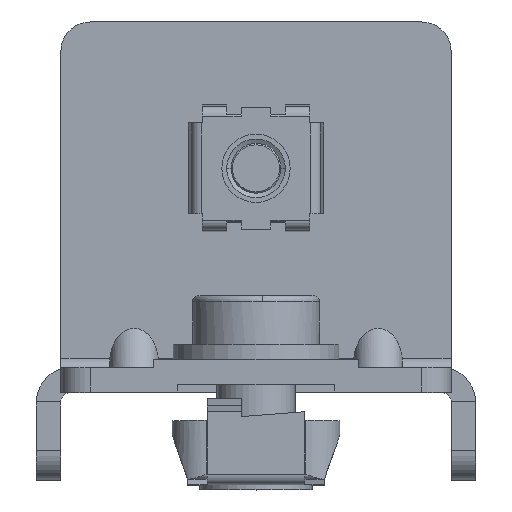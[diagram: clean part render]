
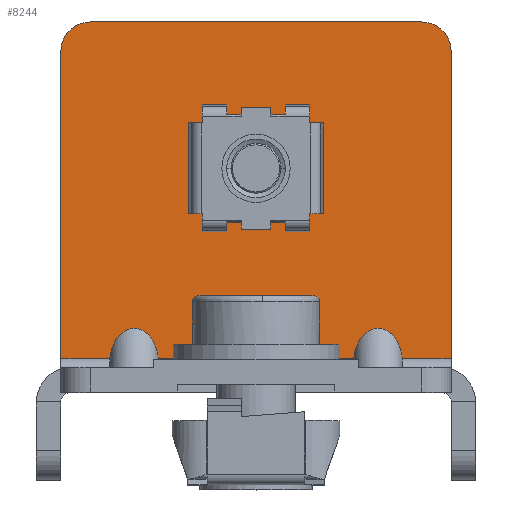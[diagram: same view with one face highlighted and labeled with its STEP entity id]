
A CAD part, top view. The second image highlights one B-rep face of the part: STEP entity #8244.
In plain terms, the highlighted planar face has unit normal (0, 0, 1).
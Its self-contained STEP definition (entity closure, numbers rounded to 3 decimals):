
#96 = CARTESIAN_POINT ( 'NONE',  ( 15.2, 18.2, 2.5 ) ) ;
#174 = VECTOR ( 'NONE', #8031, 1000. ) ;
#188 = ORIENTED_EDGE ( 'NONE', *, *, #5388, .F. ) ;
#197 = EDGE_CURVE ( 'NONE', #1431, #10388, #8009, .T. ) ;
#482 = LINE ( 'NONE', #12268, #1467 ) ;
#528 = DIRECTION ( 'NONE',  ( -1., 0., 0. ) ) ;
#568 = DIRECTION ( 'NONE',  ( -1., 0., 0. ) ) ;
#663 = CARTESIAN_POINT ( 'NONE',  ( 40., 3.5, 2.5 ) ) ;
#966 = DIRECTION ( 'NONE',  ( 1., 0., 0. ) ) ;
#984 = CARTESIAN_POINT ( 'NONE',  ( 37., 38., 2.5 ) ) ;
#1375 = CARTESIAN_POINT ( 'NONE',  ( 24.8, 27.8, 2.5 ) ) ;
#1431 = VERTEX_POINT ( 'NONE', #984 ) ;
#1467 = VECTOR ( 'NONE', #2387, 1000. ) ;
#1484 = CARTESIAN_POINT ( 'NONE',  ( 0., 0., 2.5 ) ) ;
#1514 = EDGE_CURVE ( 'NONE', #11410, #3954, #4826, .T. ) ;
#1663 = CARTESIAN_POINT ( 'NONE',  ( 34.983, 3.5, 2.5 ) ) ;
#1791 = LINE ( 'NONE', #663, #4612 ) ;
#1835 = ORIENTED_EDGE ( 'NONE', *, *, #1514, .T. ) ;
#1841 = ORIENTED_EDGE ( 'NONE', *, *, #6879, .F. ) ;
#1882 = LINE ( 'NONE', #9874, #2524 ) ;
#1891 = VECTOR ( 'NONE', #5561, 1000. ) ;
#1918 = DIRECTION ( 'NONE',  ( 0., 1., 0. ) ) ;
#2026 = ORIENTED_EDGE ( 'NONE', *, *, #8572, .T. ) ;
#2116 = CARTESIAN_POINT ( 'NONE',  ( 30.017, 3.5, 2.5 ) ) ;
#2362 = CARTESIAN_POINT ( 'NONE',  ( 0., 3.5, 2.5 ) ) ;
#2387 = DIRECTION ( 'NONE',  ( 0., 1., 0. ) ) ;
#2514 = FACE_OUTER_BOUND ( 'NONE', #10365, .T. ) ;
#2524 = VECTOR ( 'NONE', #12561, 1000. ) ;
#2548 = CIRCLE ( 'NONE', #9804, 3. ) ;
#2579 = CARTESIAN_POINT ( 'NONE',  ( 5.017, 3.5, 2.5 ) ) ;
#2816 = CARTESIAN_POINT ( 'NONE',  ( 5.489, 9.15, 2.5 ) ) ;
#2927 = CIRCLE ( 'NONE', #10195, 3. ) ;
#2962 = EDGE_CURVE ( 'NONE', #4177, #8483, #1791, .T. ) ;
#2987 = CARTESIAN_POINT ( 'NONE',  ( 37., 35., 2.5 ) ) ;
#3290 = CARTESIAN_POINT ( 'NONE',  ( 15.2, 27.8, 2.5 ) ) ;
#3329 = CARTESIAN_POINT ( 'NONE',  ( 0., 38., 2.5 ) ) ;
#3471 = EDGE_CURVE ( 'NONE', #5972, #12752, #1882, .T. ) ;
#3485 = ORIENTED_EDGE ( 'NONE', *, *, #9521, .T. ) ;
#3633 = EDGE_CURVE ( 'NONE', #3954, #1431, #2927, .T. ) ;
#3813 = DIRECTION ( 'NONE',  ( 0., 0., 1. ) ) ;
#3954 = VERTEX_POINT ( 'NONE', #9914 ) ;
#4007 = ORIENTED_EDGE ( 'NONE', *, *, #2962, .F. ) ;
#4016 = ORIENTED_EDGE ( 'NONE', *, *, #12623, .T. ) ;
#4177 = VERTEX_POINT ( 'NONE', #10763 ) ;
#4347 = LINE ( 'NONE', #8384, #5144 ) ;
#4350 = VERTEX_POINT ( 'NONE', #2362 ) ;
#4612 = VECTOR ( 'NONE', #528, 1000. ) ;
#4697 = VERTEX_POINT ( 'NONE', #7704 ) ;
#4826 = LINE ( 'NONE', #8796, #8736 ) ;
#4834 = EDGE_CURVE ( 'NONE', #10388, #8717, #2548, .T. ) ;
#4850 = CARTESIAN_POINT ( 'NONE',  ( 15.2, 18.2, 2.5 ) ) ;
#5100 = CARTESIAN_POINT ( 'NONE',  ( 15.2, 27.8, 2.5 ) ) ;
#5141 = DIRECTION ( 'NONE',  ( -1., 0., 0. ) ) ;
#5144 = VECTOR ( 'NONE', #568, 1000. ) ;
#5388 = EDGE_CURVE ( 'NONE', #11410, #7023, #4347, .T. ) ;
#5561 = DIRECTION ( 'NONE',  ( 0., -1., 0. ) ) ;
#5647 =( BOUNDED_CURVE ( )  B_SPLINE_CURVE ( 3, ( #2116, #6990, #11215, #8201 ),
 .UNSPECIFIED., .F., .T. ) 
 B_SPLINE_CURVE_WITH_KNOTS ( ( 4, 4 ),
 ( 1.688, 4.595 ),
 .UNSPECIFIED. ) 
 CURVE ( )  GEOMETRIC_REPRESENTATION_ITEM ( )  RATIONAL_B_SPLINE_CURVE ( ( 1., 0.411, 0.411, 1. ) ) 
 REPRESENTATION_ITEM ( '' )  );
#5958 = DIRECTION ( 'NONE',  ( 0., 0., 1. ) ) ;
#5972 = VERTEX_POINT ( 'NONE', #5100 ) ;
#6115 = VERTEX_POINT ( 'NONE', #1375 ) ;
#6180 = EDGE_CURVE ( 'NONE', #12201, #4350, #11456, .T. ) ;
#6330 = ORIENTED_EDGE ( 'NONE', *, *, #3471, .F. ) ;
#6379 = ORIENTED_EDGE ( 'NONE', *, *, #10980, .F. ) ;
#6422 = DIRECTION ( 'NONE',  ( -1., 0., 0. ) ) ;
#6548 = LINE ( 'NONE', #1484, #1891 ) ;
#6737 = CARTESIAN_POINT ( 'NONE',  ( 3., 35., 2.5 ) ) ;
#6774 = CARTESIAN_POINT ( 'NONE',  ( 9.983, 3.5, 2.5 ) ) ;
#6879 = EDGE_CURVE ( 'NONE', #4697, #6115, #482, .T. ) ;
#6990 = CARTESIAN_POINT ( 'NONE',  ( 30.489, 9.15, 2.5 ) ) ;
#7023 = VERTEX_POINT ( 'NONE', #1663 ) ;
#7255 = LINE ( 'NONE', #3290, #174 ) ;
#7327 = DIRECTION ( 'NONE',  ( 0., 0., -1. ) ) ;
#7337 = EDGE_LOOP ( 'NONE', ( #9749, #6330, #6379, #1841 ) ) ;
#7704 = CARTESIAN_POINT ( 'NONE',  ( 24.8, 18.2, 2.5 ) ) ;
#7826 = CARTESIAN_POINT ( 'NONE',  ( 3., 38., 2.5 ) ) ;
#7903 = VECTOR ( 'NONE', #10542, 1000. ) ;
#7982 = CARTESIAN_POINT ( 'NONE',  ( 5.017, 3.5, 2.5 ) ) ;
#8009 = LINE ( 'NONE', #3329, #9327 ) ;
#8031 = DIRECTION ( 'NONE',  ( -1., 0., 0. ) ) ;
#8051 = ORIENTED_EDGE ( 'NONE', *, *, #4834, .T. ) ;
#8201 = CARTESIAN_POINT ( 'NONE',  ( 34.983, 3.5, 2.5 ) ) ;
#8244 = ADVANCED_FACE ( 'NONE', ( #11497, #2514 ), #12597, .F. ) ;
#8384 = CARTESIAN_POINT ( 'NONE',  ( 40., 3.5, 2.5 ) ) ;
#8399 = CARTESIAN_POINT ( 'NONE',  ( 0., 35., 2.5 ) ) ;
#8415 = CARTESIAN_POINT ( 'NONE',  ( 0., 38., 2.5 ) ) ;
#8483 = VERTEX_POINT ( 'NONE', #10709 ) ;
#8572 = EDGE_CURVE ( 'NONE', #4177, #7023, #5647, .T. ) ;
#8717 = VERTEX_POINT ( 'NONE', #8399 ) ;
#8725 = CARTESIAN_POINT ( 'NONE',  ( 40., 3.5, 2.5 ) ) ;
#8736 = VECTOR ( 'NONE', #1918, 1000. ) ;
#8796 = CARTESIAN_POINT ( 'NONE',  ( 40., 0., 2.5 ) ) ;
#9021 = LINE ( 'NONE', #96, #12680 ) ;
#9327 = VECTOR ( 'NONE', #5141, 1000. ) ;
#9521 = EDGE_CURVE ( 'NONE', #12201, #8483, #11971, .T. ) ;
#9749 = ORIENTED_EDGE ( 'NONE', *, *, #12289, .F. ) ;
#9799 = AXIS2_PLACEMENT_3D ( 'NONE', #8415, #7327, #10520 ) ;
#9804 = AXIS2_PLACEMENT_3D ( 'NONE', #6737, #3813, #6422 ) ;
#9840 = CARTESIAN_POINT ( 'NONE',  ( 9.511, 9.15, 2.5 ) ) ;
#9874 = CARTESIAN_POINT ( 'NONE',  ( 15.2, 27.8, 2.5 ) ) ;
#9914 = CARTESIAN_POINT ( 'NONE',  ( 40., 35., 2.5 ) ) ;
#9932 = DIRECTION ( 'NONE',  ( -1., 0., 0. ) ) ;
#10195 = AXIS2_PLACEMENT_3D ( 'NONE', #2987, #5958, #9932 ) ;
#10344 = CARTESIAN_POINT ( 'NONE',  ( 40., 3.5, 2.5 ) ) ;
#10365 = EDGE_LOOP ( 'NONE', ( #3485, #4007, #2026, #188, #1835, #10788, #10969, #8051, #4016, #11795 ) ) ;
#10388 = VERTEX_POINT ( 'NONE', #7826 ) ;
#10520 = DIRECTION ( 'NONE',  ( -1., 0., 0. ) ) ;
#10542 = DIRECTION ( 'NONE',  ( -1., 0., 0. ) ) ;
#10709 = CARTESIAN_POINT ( 'NONE',  ( 9.983, 3.5, 2.5 ) ) ;
#10763 = CARTESIAN_POINT ( 'NONE',  ( 30.017, 3.5, 2.5 ) ) ;
#10788 = ORIENTED_EDGE ( 'NONE', *, *, #3633, .T. ) ;
#10969 = ORIENTED_EDGE ( 'NONE', *, *, #197, .T. ) ;
#10980 = EDGE_CURVE ( 'NONE', #6115, #5972, #7255, .T. ) ;
#11215 = CARTESIAN_POINT ( 'NONE',  ( 34.511, 9.15, 2.5 ) ) ;
#11410 = VERTEX_POINT ( 'NONE', #8725 ) ;
#11456 = LINE ( 'NONE', #10344, #7903 ) ;
#11497 = FACE_BOUND ( 'NONE', #7337, .T. ) ;
#11795 = ORIENTED_EDGE ( 'NONE', *, *, #6180, .F. ) ;
#11971 =( BOUNDED_CURVE ( )  B_SPLINE_CURVE ( 3, ( #2579, #2816, #9840, #6774 ),
 .UNSPECIFIED., .F., .T. ) 
 B_SPLINE_CURVE_WITH_KNOTS ( ( 4, 4 ),
 ( 1.688, 4.595 ),
 .UNSPECIFIED. ) 
 CURVE ( )  GEOMETRIC_REPRESENTATION_ITEM ( )  RATIONAL_B_SPLINE_CURVE ( ( 1., 0.411, 0.411, 1. ) ) 
 REPRESENTATION_ITEM ( '' )  );
#12201 = VERTEX_POINT ( 'NONE', #7982 ) ;
#12268 = CARTESIAN_POINT ( 'NONE',  ( 24.8, 27.8, 2.5 ) ) ;
#12289 = EDGE_CURVE ( 'NONE', #12752, #4697, #9021, .T. ) ;
#12561 = DIRECTION ( 'NONE',  ( 0., -1., 0. ) ) ;
#12597 = PLANE ( 'NONE',  #9799 ) ;
#12623 = EDGE_CURVE ( 'NONE', #8717, #4350, #6548, .T. ) ;
#12680 = VECTOR ( 'NONE', #966, 1000. ) ;
#12752 = VERTEX_POINT ( 'NONE', #4850 ) ;
